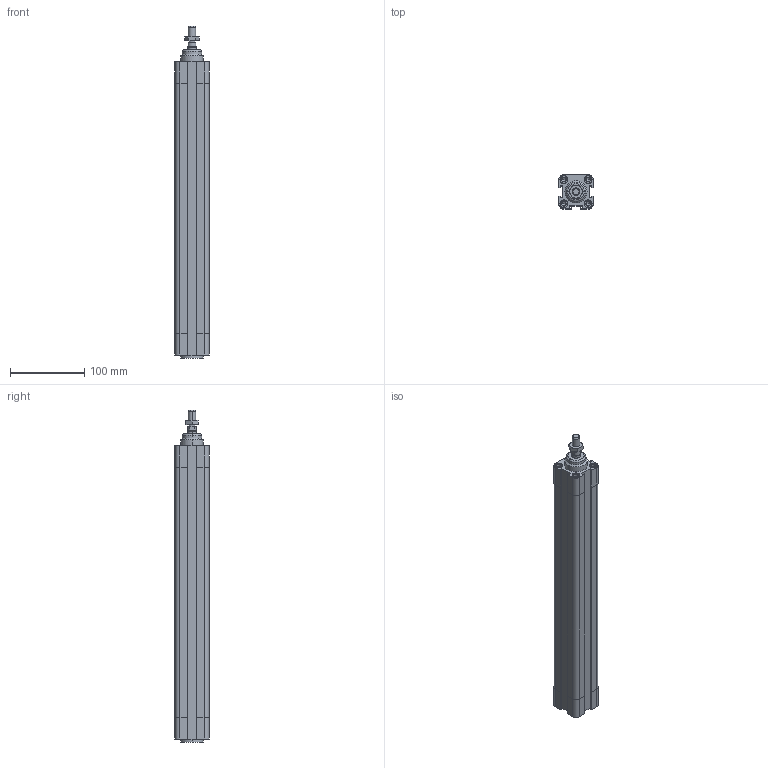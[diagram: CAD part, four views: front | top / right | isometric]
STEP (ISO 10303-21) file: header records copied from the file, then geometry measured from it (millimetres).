
FILE_DESCRIPTION((''),'2;1');
FILE_NAME('F:\Lib-3d\1380\CIL\1380_32_0300_01.stp','2004-01-07T15:59:49',('maffial1'),(''),'Autodesk Inventor 8','Autodesk Inventor 8','');
FILE_SCHEMA(('AUTOMOTIVE_DESIGN { 1 0 10303 214 1 1 1 1 }'));
Length unit declared in the file: millimetre
Products named in the file (4): 1380_32_0300_01; CPP01_32_300; CPP02_32_300; 1320_32_18F
Assembly tree (3 placements, depth 2):
  1380_32_0300_01
    CPP01_32_300
    CPP02_32_300
    1320_32_18F
Bounding box: 46 x 46 x 446 mm (x, y, z)
Volume: 745416.7 mm3; surface area: 124475.9 mm2
Topology: 3 solids, 3 shells, 244 faces, 570 edges, 356 vertices
Faces by surface type: plane 83, bspline 67, cylinder 58, cone 34, torus 2
Entity records: 7668 total; most frequent: CARTESIAN_POINT 2166, DIRECTION 1136, ORIENTED_EDGE 1108, EDGE_CURVE 554, AXIS2_PLACEMENT_3D 422, VERTEX_POINT 356, VECTOR 292, LINE 292
